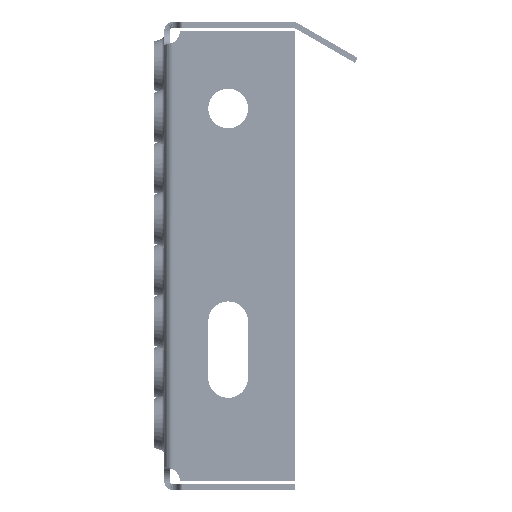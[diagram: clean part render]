
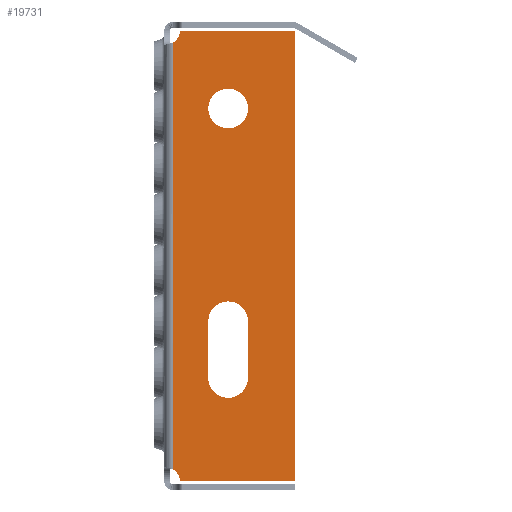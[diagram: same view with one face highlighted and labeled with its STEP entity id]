
A CAD part, left-side view. The second image highlights one B-rep face of the part: STEP entity #19731.
In plain terms, the highlighted planar face has unit normal (-1, 0, 0).
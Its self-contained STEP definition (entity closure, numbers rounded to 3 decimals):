
#67 = CARTESIAN_POINT ( 'NONE',  ( -600., -46., 79.5 ) ) ;
#85 = ORIENTED_EDGE ( 'NONE', *, *, #3533, .F. ) ;
#116 = EDGE_CURVE ( 'NONE', #26484, #2039, #36509, .T. ) ;
#547 = DIRECTION ( 'NONE',  ( -1., 0., 0. ) ) ;
#911 = DIRECTION ( 'NONE',  ( 0., 0., -1. ) ) ;
#1554 = ORIENTED_EDGE ( 'NONE', *, *, #116, .T. ) ;
#1671 = DIRECTION ( 'NONE',  ( 0., 0., -1. ) ) ;
#2035 = FACE_BOUND ( 'NONE', #22120, .T. ) ;
#2039 = VERTEX_POINT ( 'NONE', #17315 ) ;
#2304 = CIRCLE ( 'NONE', #31518, 5. ) ;
#2313 = AXIS2_PLACEMENT_3D ( 'NONE', #32279, #14226, #35292 ) ;
#3236 = VERTEX_POINT ( 'NONE', #17953 ) ;
#3533 = EDGE_CURVE ( 'NONE', #7452, #37973, #26608, .T. ) ;
#3916 = LINE ( 'NONE', #67, #19066 ) ;
#4304 = DIRECTION ( 'NONE',  ( 0., 0., 1. ) ) ;
#5461 = CARTESIAN_POINT ( 'NONE',  ( -600., -3., 75.17 ) ) ;
#5611 = ORIENTED_EDGE ( 'NONE', *, *, #14516, .T. ) ;
#6279 = LINE ( 'NONE', #12098, #20481 ) ;
#6993 = VERTEX_POINT ( 'NONE', #34252 ) ;
#7224 = AXIS2_PLACEMENT_3D ( 'NONE', #32578, #14523, #35579 ) ;
#7315 = ORIENTED_EDGE ( 'NONE', *, *, #13149, .T. ) ;
#7452 = VERTEX_POINT ( 'NONE', #36182 ) ;
#7615 = ORIENTED_EDGE ( 'NONE', *, *, #36085, .T. ) ;
#8446 = EDGE_CURVE ( 'NONE', #36236, #3236, #22551, .T. ) ;
#8541 = CARTESIAN_POINT ( 'NONE',  ( -600., -29.5, -43. ) ) ;
#9124 = VERTEX_POINT ( 'NONE', #32657 ) ;
#9816 = ORIENTED_EDGE ( 'NONE', *, *, #19893, .T. ) ;
#11574 = VERTEX_POINT ( 'NONE', #5461 ) ;
#11581 = PLANE ( 'NONE',  #26342 ) ;
#12092 = VECTOR ( 'NONE', #4304, 1000. ) ;
#12098 = CARTESIAN_POINT ( 'NONE',  ( -600., -46., -79.5 ) ) ;
#12228 = DIRECTION ( 'NONE',  ( 0., 0., 1. ) ) ;
#12754 = CIRCLE ( 'NONE', #20398, 1. ) ;
#12882 = ORIENTED_EDGE ( 'NONE', *, *, #22227, .T. ) ;
#13149 = EDGE_CURVE ( 'NONE', #16405, #36236, #3916, .T. ) ;
#13697 = CARTESIAN_POINT ( 'NONE',  ( -600., -15.5, -23. ) ) ;
#13759 = CARTESIAN_POINT ( 'NONE',  ( -600., -15.5, -43. ) ) ;
#14226 = DIRECTION ( 'NONE',  ( -1., 0., 0. ) ) ;
#14516 = EDGE_CURVE ( 'NONE', #2039, #31172, #12754, .T. ) ;
#14523 = DIRECTION ( 'NONE',  ( -1., 0., 0. ) ) ;
#14646 = CARTESIAN_POINT ( 'NONE',  ( -600., -0.5, -79.5 ) ) ;
#14930 = VERTEX_POINT ( 'NONE', #8541 ) ;
#15356 = DIRECTION ( 'NONE',  ( -1., 0., 0. ) ) ;
#16405 = VERTEX_POINT ( 'NONE', #23345 ) ;
#17315 = CARTESIAN_POINT ( 'NONE',  ( -600., -5.43, -78.667 ) ) ;
#17513 = CARTESIAN_POINT ( 'NONE',  ( -600., -0.5, 79.5 ) ) ;
#17702 = DIRECTION ( 'NONE',  ( 0., 0., -1. ) ) ;
#17953 = CARTESIAN_POINT ( 'NONE',  ( -600., -5.43, 78.667 ) ) ;
#18137 = FACE_OUTER_BOUND ( 'NONE', #34233, .T. ) ;
#18640 = ORIENTED_EDGE ( 'NONE', *, *, #32877, .F. ) ;
#18680 = CARTESIAN_POINT ( 'NONE',  ( -600., -22.5, -43. ) ) ;
#19046 = DIRECTION ( 'NONE',  ( -1., 0., 0. ) ) ;
#19066 = VECTOR ( 'NONE', #33302, 1000. ) ;
#19731 = ADVANCED_FACE ( 'NONE', ( #18137, #2035, #26097 ), #11581, .F. ) ;
#19893 = EDGE_CURVE ( 'NONE', #6993, #16405, #6279, .T. ) ;
#20398 = AXIS2_PLACEMENT_3D ( 'NONE', #37025, #19046, #911 ) ;
#20481 = VECTOR ( 'NONE', #12228, 1000. ) ;
#20552 = DIRECTION ( 'NONE',  ( 0., 0., -1. ) ) ;
#20568 = EDGE_CURVE ( 'NONE', #37973, #14930, #34971, .T. ) ;
#20581 = VERTEX_POINT ( 'NONE', #37396 ) ;
#20994 = DIRECTION ( 'NONE',  ( 0., -1., 0. ) ) ;
#21335 = DIRECTION ( 'NONE',  ( 0., 0., 1. ) ) ;
#21561 = VECTOR ( 'NONE', #21335, 1000. ) ;
#21696 = DIRECTION ( 'NONE',  ( 0., 0., -1. ) ) ;
#22120 = EDGE_LOOP ( 'NONE', ( #18640 ) ) ;
#22227 = EDGE_CURVE ( 'NONE', #3236, #11574, #2304, .T. ) ;
#22260 = CARTESIAN_POINT ( 'NONE',  ( -600., -29.5, -23. ) ) ;
#22551 = CIRCLE ( 'NONE', #7224, 1. ) ;
#23345 = CARTESIAN_POINT ( 'NONE',  ( -600., -46., 79.5 ) ) ;
#23417 = ORIENTED_EDGE ( 'NONE', *, *, #8446, .T. ) ;
#23989 = EDGE_CURVE ( 'NONE', #14930, #9124, #29094, .T. ) ;
#24851 = EDGE_CURVE ( 'NONE', #26484, #11574, #37535, .T. ) ;
#24992 = EDGE_LOOP ( 'NONE', ( #85, #29130, #34410, #27155 ) ) ;
#25390 = AXIS2_PLACEMENT_3D ( 'NONE', #18680, #547, #21696 ) ;
#25594 = AXIS2_PLACEMENT_3D ( 'NONE', #33404, #15356, #36403 ) ;
#25595 = CIRCLE ( 'NONE', #2313, 7. ) ;
#26097 = FACE_BOUND ( 'NONE', #24992, .T. ) ;
#26342 = AXIS2_PLACEMENT_3D ( 'NONE', #26577, #35405, #32648 ) ;
#26484 = VERTEX_POINT ( 'NONE', #37367 ) ;
#26577 = CARTESIAN_POINT ( 'NONE',  ( -600., 0.5, -85.416 ) ) ;
#26608 = LINE ( 'NONE', #13697, #33683 ) ;
#27155 = ORIENTED_EDGE ( 'NONE', *, *, #20568, .F. ) ;
#28133 = CARTESIAN_POINT ( 'NONE',  ( -600., -6.416, -79.5 ) ) ;
#29094 = LINE ( 'NONE', #22260, #12092 ) ;
#29130 = ORIENTED_EDGE ( 'NONE', *, *, #31975, .F. ) ;
#30054 = VECTOR ( 'NONE', #20994, 1000. ) ;
#30262 = CARTESIAN_POINT ( 'NONE',  ( -600., -3., -85.416 ) ) ;
#30532 = ORIENTED_EDGE ( 'NONE', *, *, #24851, .F. ) ;
#30715 = CARTESIAN_POINT ( 'NONE',  ( -600., -6.416, 79.5 ) ) ;
#30727 = CIRCLE ( 'NONE', #25594, 7. ) ;
#31172 = VERTEX_POINT ( 'NONE', #28133 ) ;
#31518 = AXIS2_PLACEMENT_3D ( 'NONE', #17513, #38537, #20552 ) ;
#31975 = EDGE_CURVE ( 'NONE', #9124, #7452, #25595, .T. ) ;
#32186 = AXIS2_PLACEMENT_3D ( 'NONE', #14646, #35696, #17702 ) ;
#32279 = CARTESIAN_POINT ( 'NONE',  ( -600., -22.5, -23. ) ) ;
#32578 = CARTESIAN_POINT ( 'NONE',  ( -600., -6.416, 78.5 ) ) ;
#32648 = DIRECTION ( 'NONE',  ( 0., 0., -1. ) ) ;
#32657 = CARTESIAN_POINT ( 'NONE',  ( -600., -29.5, -23. ) ) ;
#32877 = EDGE_CURVE ( 'NONE', #20581, #20581, #30727, .T. ) ;
#32943 = CARTESIAN_POINT ( 'NONE',  ( -600., -6.416, -79.5 ) ) ;
#33302 = DIRECTION ( 'NONE',  ( 0., 1., 0. ) ) ;
#33404 = CARTESIAN_POINT ( 'NONE',  ( -600., -22.5, 52. ) ) ;
#33683 = VECTOR ( 'NONE', #1671, 1000. ) ;
#34233 = EDGE_LOOP ( 'NONE', ( #30532, #1554, #5611, #7615, #9816, #7315, #23417, #12882 ) ) ;
#34252 = CARTESIAN_POINT ( 'NONE',  ( -600., -46., -79.5 ) ) ;
#34410 = ORIENTED_EDGE ( 'NONE', *, *, #23989, .F. ) ;
#34971 = CIRCLE ( 'NONE', #25390, 7. ) ;
#35292 = DIRECTION ( 'NONE',  ( 0., 0., -1. ) ) ;
#35405 = DIRECTION ( 'NONE',  ( 1., 0., 0. ) ) ;
#35579 = DIRECTION ( 'NONE',  ( 0., 0., 1. ) ) ;
#35696 = DIRECTION ( 'NONE',  ( 1., 0., 0. ) ) ;
#36085 = EDGE_CURVE ( 'NONE', #31172, #6993, #36138, .T. ) ;
#36138 = LINE ( 'NONE', #32943, #30054 ) ;
#36182 = CARTESIAN_POINT ( 'NONE',  ( -600., -15.5, -23. ) ) ;
#36236 = VERTEX_POINT ( 'NONE', #30715 ) ;
#36403 = DIRECTION ( 'NONE',  ( 0., 0., -1. ) ) ;
#36509 = CIRCLE ( 'NONE', #32186, 5. ) ;
#37025 = CARTESIAN_POINT ( 'NONE',  ( -600., -6.416, -78.5 ) ) ;
#37367 = CARTESIAN_POINT ( 'NONE',  ( -600., -3., -75.17 ) ) ;
#37396 = CARTESIAN_POINT ( 'NONE',  ( -600., -22.5, 45. ) ) ;
#37535 = LINE ( 'NONE', #30262, #21561 ) ;
#37973 = VERTEX_POINT ( 'NONE', #13759 ) ;
#38537 = DIRECTION ( 'NONE',  ( 1., 0., 0. ) ) ;
